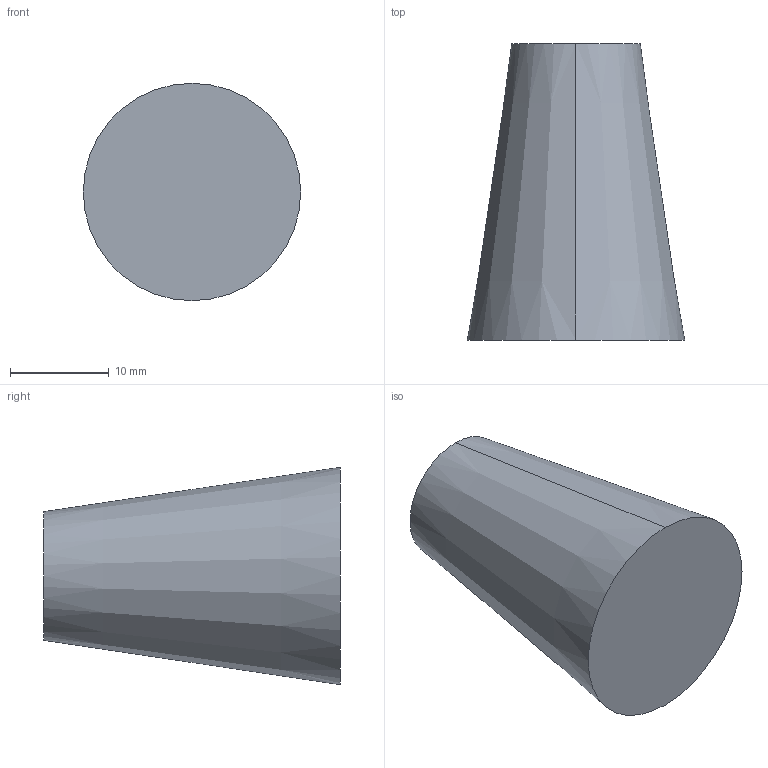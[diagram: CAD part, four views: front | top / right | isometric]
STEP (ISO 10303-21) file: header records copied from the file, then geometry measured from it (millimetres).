
FILE_DESCRIPTION( ( '' ), '1' );
FILE_NAME( 'C:/Documents and Settings/Nikhil/Desktop/Nik/Done/9113565.stp', '2013-10-23T11:21:19', ( '' ), ( '' ), ' ', ' ', ' ' );
FILE_SCHEMA( ( 'automotive_design' ) );
Length unit declared in the file: millimetre
Products named in the file (1): 1
Bounding box: 22 x 30 x 22 mm (x, y, z)
Volume: 7286.9 mm3; surface area: 2268.6 mm2
Topology: 1 solids, 1 shells, 7 faces, 12 edges, 8 vertices
Faces by surface type: plane 3, cone 2, cylinder 2
Entity records: 354 total; most frequent: DIRECTION 36, STYLED_ITEM 28, PRESENTATION_STYLE_ASSIGNMENT 28, CARTESIAN_POINT 28, COLOUR_RGB 28, ORIENTED_EDGE 24, AXIS2_PLACEMENT_3D 16, EDGE_CURVE 12
